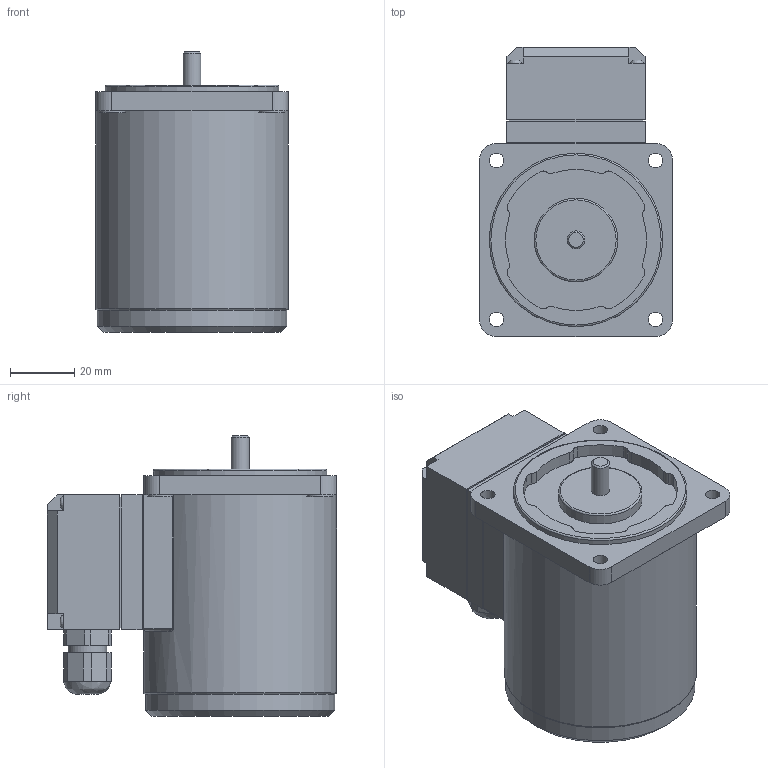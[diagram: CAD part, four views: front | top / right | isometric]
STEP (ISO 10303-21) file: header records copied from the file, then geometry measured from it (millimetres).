
FILE_DESCRIPTION((''),'2;1');
FILE_NAME('E:\2공장-도면\3D\표준형 3D(민규)\step file\K6IG6Nㅁ-T.stp','2014-11-12T17:39:17',('AHN'),(''),'Autodesk Inventor 2012','Autodesk Inventor 2012','');
FILE_SCHEMA(('CONFIG_CONTROL_DESIGN'));
Length unit declared in the file: millimetre
Products named in the file (4): K6IG6Nㅁ-T; TERMINAL BOX; 케이블1; K6IG6Nㅁ
Assembly tree (3 placements, depth 2):
  K6IG6Nㅁ-T
    TERMINAL BOX
    케이블1
    K6IG6Nㅁ
Bounding box: 60 x 90 x 87.5 mm (x, y, z)
Volume: 276588.3 mm3; surface area: 34369.4 mm2
Topology: 3 solids, 3 shells, 163 faces, 405 edges, 261 vertices
Faces by surface type: plane 96, cylinder 49, bspline 9, torus 5, cone 4
Full cylindrical faces by diameter (mm): 4.5 x4, 5.6 x1, 7.2 x1, 7.5 x1, 8 x2, 12 x2, 26 x1, 54 x1, 59 x1, 60 x1
Entity records: 5225 total; most frequent: CARTESIAN_POINT 1295, DIRECTION 813, ORIENTED_EDGE 742, EDGE_CURVE 371, AXIS2_PLACEMENT_3D 287, VERTEX_POINT 256, VECTOR 239, LINE 239
